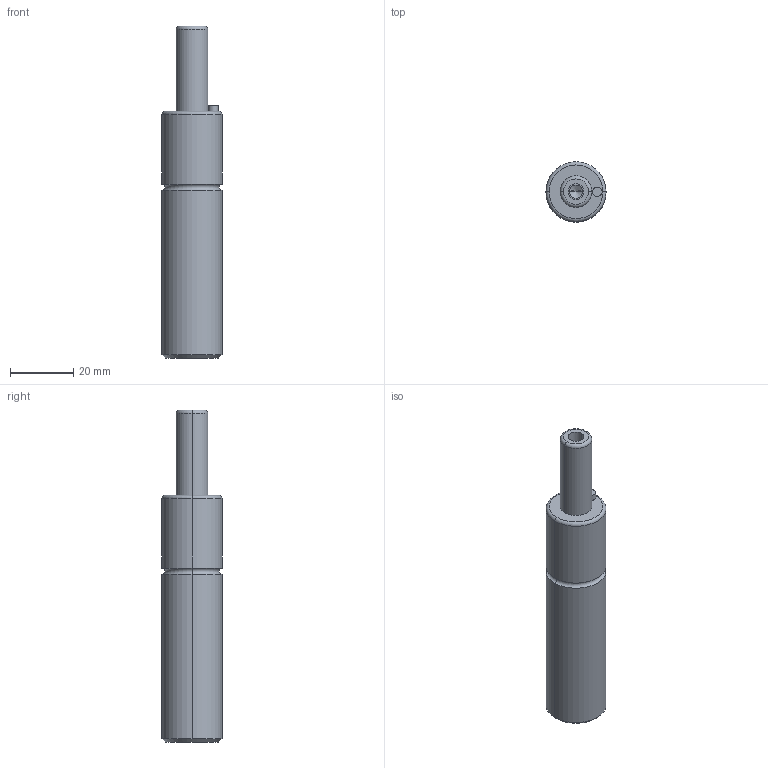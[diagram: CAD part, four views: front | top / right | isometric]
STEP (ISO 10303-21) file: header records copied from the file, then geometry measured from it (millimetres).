
FILE_DESCRIPTION(/* description */ (''),/* implementation_level */ '2;1');
FILE_NAME(/* name */ '3d_gsm19-25_03937_r00.stp',/* time_stamp */ '2011-01-10T14:15:17+09:00',/* author */ ('MISUMI'),/* organization */ (''),/* preprocessor_version */ 'ST-DEVELOPER v11',/* originating_system */ 'UGS - NX 5.0',/* authorisation */ '');
FILE_SCHEMA (('CONFIG_CONTROL_DESIGN'));
Length unit declared in the file: millimetre
Products named in the file (1): 3d_gsm19-25_03937_r00
Bounding box: 19 x 19 x 105 mm (x, y, z)
Volume: 23672.2 mm3; surface area: 6388 mm2
Topology: 1 solids, 1 shells, 34 faces, 70 edges, 40 vertices
Faces by surface type: cylinder 16, cone 6, plane 6, torus 6
Entity records: 964 total; most frequent: DIRECTION 180, CARTESIAN_POINT 141, ORIENTED_EDGE 132, AXIS2_PLACEMENT_3D 79, EDGE_CURVE 66, CIRCLE 44, EDGE_LOOP 40, VERTEX_POINT 40
